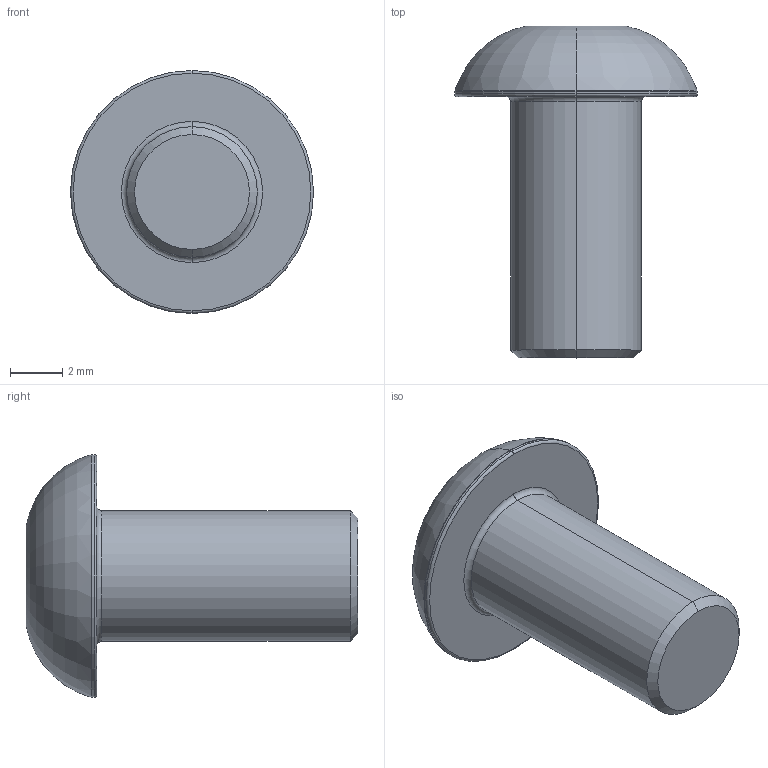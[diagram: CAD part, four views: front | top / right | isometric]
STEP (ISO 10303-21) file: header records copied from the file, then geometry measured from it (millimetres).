
FILE_DESCRIPTION (( 'STEP AP203' ), '1' );
FILE_NAME ('LGDD-304-M5x10.STEP', '2026-08-08T04:55:14', ( '' ), ( '' ), 'SwSTEP 2.0', 'SolidWorks 2020', '' );
FILE_SCHEMA (( 'CONFIG_CONTROL_DESIGN' ));
Length unit declared in the file: millimetre
Products named in the file (1): LGDD-304-M5x10
Bounding box: 9.3 x 12.7 x 9.3 mm (x, y, z)
Volume: 310.2 mm3; surface area: 345.5 mm2
Topology: 1 solids, 1 shells, 31 faces, 59 edges, 32 vertices
Faces by surface type: plane 10, cone 9, torus 8, cylinder 4
Entity records: 864 total; most frequent: CARTESIAN_POINT 154, DIRECTION 149, ORIENTED_EDGE 118, AXIS2_PLACEMENT_3D 65, EDGE_CURVE 59, CIRCLE 33, EDGE_LOOP 33, VERTEX_POINT 32
